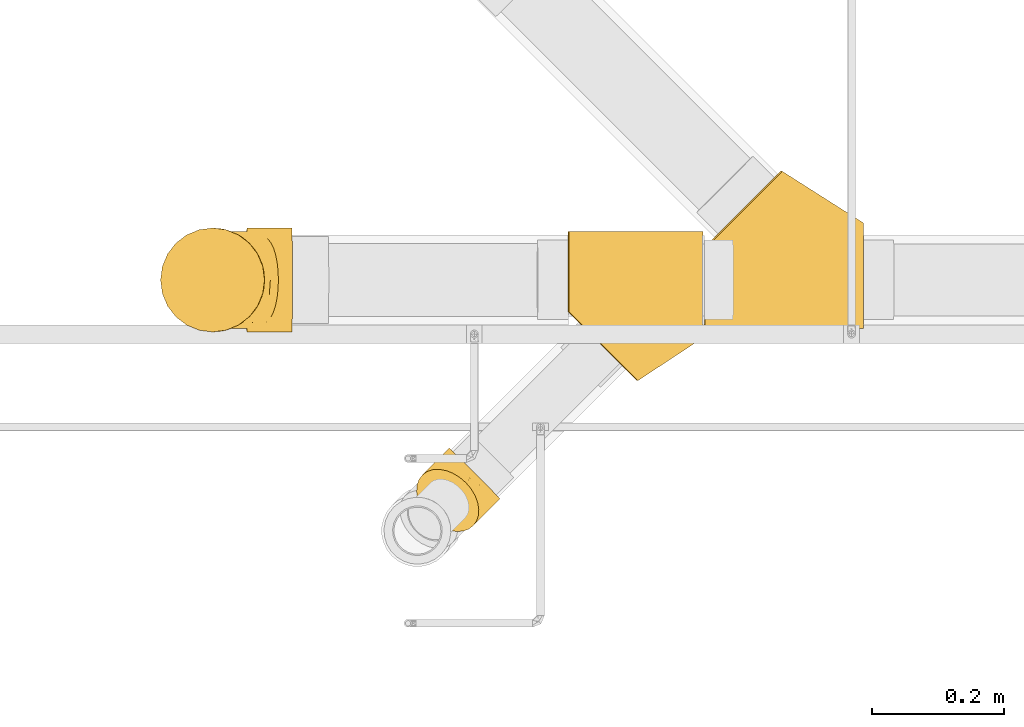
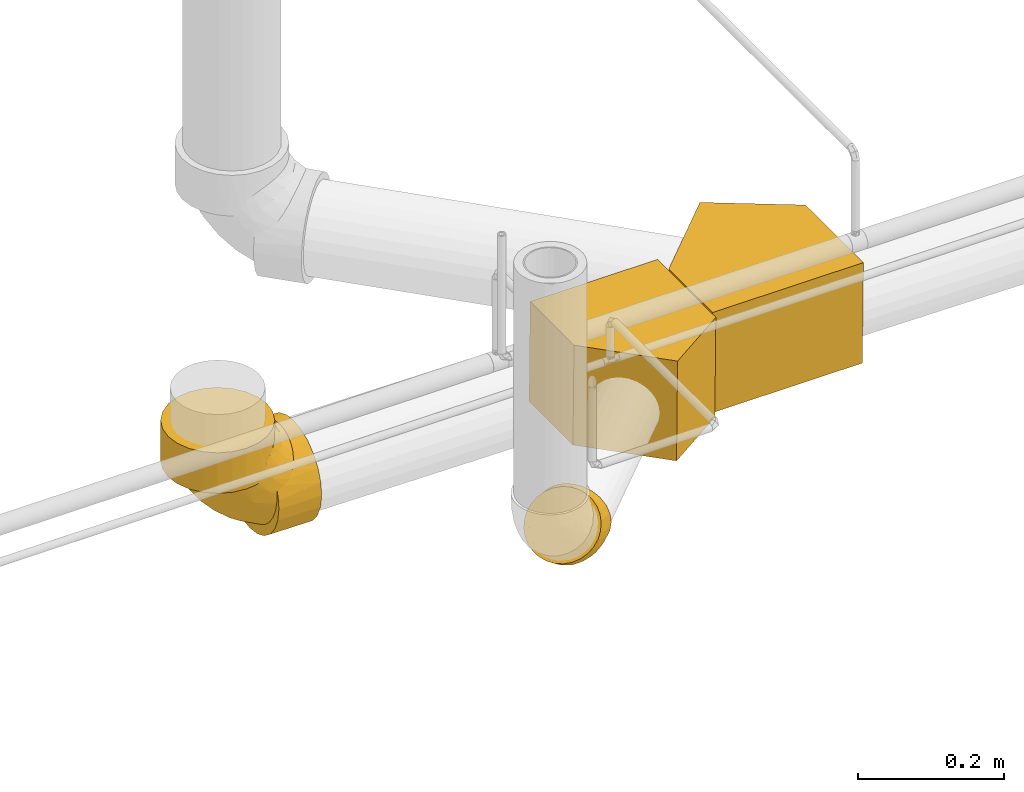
# One storey, part 9 of 108: 4 coverings.
"""IFC2X3 building model written with IfcOpenShell, lengths in millimetres."""

from ifc_helpers import new_model, entity, si_unit, converted_unit, derived_unit, direction, frame, origin_with_axes, place, context, subcontext, project, spatial, open_shell, surface_model, source, transform, mapped, element, save


model = new_model("IFC2X3")

# Units and contexts
model_context = context("Model", 3, precision=0.01, world=frame((0.0, 4.29681676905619e-09, 0.0)), true_north=direction((4.01073788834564e-13, 1.0)))
plan_context = context("Plan", 3, precision=0.01, world=frame((0.0, 4.29681676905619e-09, 0.0)), true_north=direction((4.01073788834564e-13, 1.0)))
body_context = subcontext(model_context, "Body", "Model", "MODEL_VIEW")
ifc_project = project(units=[converted_unit("PLANEANGLEUNIT", "DEGREE", entity("IfcPositiveLengthMeasure", 0.0174532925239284), si_unit("PLANEANGLEUNIT", "RADIAN"), dimensions=[0, 0, 0, 0, 0, 0, 0]), si_unit("AREAUNIT", "SQUARE_METRE"), si_unit("LENGTHUNIT", "METRE", prefix="MILLI"), si_unit("MASSUNIT", "GRAM", prefix="KILO"), si_unit("POWERUNIT", "WATT"), si_unit("PRESSUREUNIT", "PASCAL", prefix="KILO"), si_unit("FORCEUNIT", "NEWTON", prefix="KILO"), si_unit("ELECTRICVOLTAGEUNIT", "VOLT"), si_unit("ELECTRICCURRENTUNIT", "AMPERE"), si_unit("THERMODYNAMICTEMPERATUREUNIT", "DEGREE_CELSIUS"), si_unit("TIMEUNIT", "SECOND"), si_unit("VOLUMEUNIT", "CUBIC_METRE"), derived_unit("LINEARVELOCITYUNIT", [(si_unit("LENGTHUNIT", "METRE"), 1), (si_unit("TIMEUNIT", "SECOND"), -1)]), derived_unit("VOLUMETRICFLOWRATEUNIT", [(si_unit("VOLUMEUNIT", "CUBIC_METRE"), 1), (si_unit("TIMEUNIT", "SECOND"), -1)]), derived_unit("THERMALTRANSMITTANCEUNIT", [(si_unit("POWERUNIT", "WATT"), 1), (si_unit("THERMODYNAMICTEMPERATUREUNIT", "KELVIN"), -1), (si_unit("AREAUNIT", "SQUARE_METRE"), -1)]), derived_unit("SOUNDPRESSUREUNIT", [(si_unit("PRESSUREUNIT", "PASCAL"), 1)])], contexts=[model_context, plan_context])

# Site, building, storey
site_placement = place(None, frame((0.0, -4.29681676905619e-09, 0.0), z_axis=(0.0, 0.0, 1.0), x_axis=(1.0, 0.0, 0.0)))
site = spatial("IfcSite", under=ifc_project, at=site_placement, CompositionType="ELEMENT")
building_placement = place(site_placement, frame((0.0, 4.29681676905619e-09, 0.0), z_axis=(0.0, 0.0, 1.0), x_axis=(1.0, 0.0, 0.0)))
building = spatial("IfcBuilding", under=site, at=building_placement, Name="mc-building", CompositionType="ELEMENT")
storey_placement = place(building_placement, frame((0.0, 0.0, 210200.0), z_axis=(0.0, 0.0, 1.0), x_axis=(1.0, 0.0, 0.0)))
storey = spatial("IfcBuildingStorey", under=building, at=storey_placement, Name="Nivå F - 0,7 m", CompositionType="ELEMENT", Elevation=210200.0)

# Coverings
shared_shape_1 = source(origin_with_axes(), body_context, "Body", "SurfaceModel", [
    surface_model("IfcShellBasedSurfaceModel", [(-51.79605, 0.0, -78.5), (-51.79605, 14.36612, -77.17425), (-51.79605, 5.63118, -72.35594), (-51.79605, 20.91504, -73.5), (-51.79605, 24.56162, -73.43881), (-51.79605, -9.27305, -68.76563), (-51.79605, -20.31729, -75.82518), (-51.79605, 28.2042, -73.25826), (-51.79605, -23.3085, -62.59314), (-51.79605, -39.25, -67.983), (-51.79605, -35.91072, -53.86175), (-51.79605, -55.50788, -55.50788), (-51.79605, -46.49495, -42.77317), (-51.79605, -67.983, -39.25), (-51.79605, -54.51455, -29.71191), (-51.79605, -59.52251, -15.2285), (-51.79605, -75.82518, -20.31729), (-51.79605, -78.5, 0.0), (-51.79605, -61.22582, 0.0), (-51.79605, -23.3085, 62.59314), (-51.79605, -9.27305, 68.76563), (-51.79605, -20.31729, 75.82518), (-51.79605, 5.63118, 72.35594), (-51.79605, 0.0, 78.5), (-51.79605, 20.91504, 73.5), (-51.79605, 24.56162, 73.43881), (-51.79605, 14.36644, 77.17419), (-51.79605, 28.2042, 73.25826), (-51.79605, -39.25, 67.983), (-51.79605, -59.52251, 15.2285), (-51.79605, -54.51455, 29.71191), (-51.79605, -75.82518, 20.31729), (-51.79605, -67.983, 39.25), (-51.79605, -35.91072, 53.86175), (-51.79605, -55.50788, 55.50788), (-51.79605, -46.49495, 42.77317), (-119.79605, 20.31729, 75.82518), (-119.79605, -20.31729, 75.82518), (-119.79605, 0.0, 78.5), (-119.79605, 55.50788, 55.50788), (-119.79605, 39.25, 67.983), (-119.79605, 67.983, 39.25), (-119.79605, 75.82518, 20.31729), (-119.79605, -39.25, 67.983), (-119.79605, -78.5, 0.0), (-119.79605, -55.50788, 55.50788), (-119.79605, -75.82518, 20.31729), (-119.79605, -67.983, 39.25), (-119.79605, 78.5, 0.0), (-119.79605, -67.983, -39.25), (-119.79605, 75.82518, -20.31729), (-119.79605, 39.25, -67.983), (-119.79605, 67.983, -39.25), (-119.79605, 20.31729, -75.82518), (-119.79605, 55.50788, -55.50788), (-119.79605, -39.25, -67.983), (-119.79605, -55.50788, -55.50788), (-119.79605, -75.82518, -20.31729), (-119.79605, 0.0, -78.5), (-119.79605, -20.31729, -75.82518), (-98.1846, 77.47891, 12.62014), (-119.79605, 77.16259, 10.15865), (-91.93105, 63.02644, 46.79656), (-96.98023, 74.45802, 24.86469), (-98.58285, 78.5, 0.0), (-94.92986, 69.56634, 36.36996), (-87.76783, 55.18462, 55.82927), (-82.04571, 46.5999, 63.17198), (-74.20012, 38.25749, 68.54644), (-63.88761, 31.69435, 71.81726), (-74.20012, 38.25749, -68.54644), (-82.04571, 46.5999, -63.17198), (-98.1846, 77.47891, -12.62014), (-119.79605, 77.16259, -10.15865), (-63.88761, 31.69435, -71.81726), (-91.93105, 63.02644, -46.79656), (-96.98023, 74.45802, -24.86469), (-87.76783, 55.18462, -55.82927), (-94.92986, 69.56634, -36.36996), (56.02304, 51.23841, -55.50788), (47.01056, 51.32853, -42.77317), (36.42686, 51.43437, -53.86175), (68.49753, 51.11366, -39.25), (39.76597, 51.40098, -67.983), (23.82526, 51.56039, -62.59314), (76.33932, 51.03525, -20.31729), (55.02975, 51.24834, -29.71191), (60.03747, 51.19826, -15.2285), (79.01401, 51.0085, 0.0), (61.74069, 51.18123, 0.0), (-5.11296, 51.84977, -72.35594), (-13.84746, 51.93711, -77.17425), (0.51793, 51.79346, -78.5), (-20.39605, 52.0026, -73.5), (-24.04246, 52.03907, -73.43881), (20.83421, 51.5903, -75.82518), (9.79052, 51.70073, -68.76563), (-27.68486, 52.07549, -73.25826), (76.33932, 51.03525, 20.31729), (60.03747, 51.19826, 15.2285), (55.02975, 51.24834, 29.71191), (68.49753, 51.11366, 39.25), (56.02304, 51.23841, 55.50788), (47.01056, 51.32853, 42.77317), (36.42686, 51.43437, 53.86175), (39.76597, 51.40098, 67.983), (23.82526, 51.56039, 62.59314), (9.79052, 51.70073, 68.76563), (20.83421, 51.5903, 75.82518), (0.51793, 51.79346, 78.5), (-5.11296, 51.84977, 72.35594), (-13.84746, 51.93711, 77.17425), (-24.04246, 52.03907, 73.43881), (-20.39605, 52.0026, 73.5), (-27.68486, 52.07549, 73.25826), (21.51418, 119.5869, 75.82518), (-19.11838, 119.99322, 75.82518), (1.1979, 119.79006, 78.5), (56.70301, 119.23501, 55.50788), (40.44594, 119.39758, 67.983), (69.1775, 119.11026, -39.25), (69.1775, 119.11026, 39.25), (-66.78169, 120.46985, -39.25), (-54.3072, 120.34511, 55.50788), (-38.05014, 120.18254, 67.983), (-77.29817, 120.57503, 0.0), (-66.78169, 120.46985, 39.25), (-74.62348, 120.54827, 20.31729), (79.69397, 119.0051, 0.0), (77.01929, 119.03184, 20.31729), (77.01929, 119.03184, -20.31729), (56.70301, 119.23501, -55.50788), (40.44594, 119.39758, -67.983), (21.51418, 119.5869, -75.82518), (-54.3072, 120.34511, -55.50788), (-74.62348, 120.54827, -20.31729), (-19.11838, 119.99322, -75.82518), (-38.05014, 120.18254, -67.983), (1.1979, 119.79006, -78.5), (-37.51362, 74.57897, 68.54644), (-45.77716, 82.50758, 63.17198), (-76.49324, 98.95444, 12.62014), (-75.96083, 120.56165, 10.15865), (-31.05392, 64.20134, 71.81726), (-62.10403, 92.55669, 46.79656), (-77.51029, 99.36288, 0.0), (-73.48455, 97.71993, 24.86469), (-54.30423, 88.31527, 55.82927), (-68.61361, 95.62074, 36.36996), (-76.49324, 98.95444, -12.62014), (-75.96083, 120.56165, -10.15865), (-73.48455, 97.71993, -24.86469), (-62.10403, 92.55669, -46.79656), (-68.61361, 95.62074, -36.36996), (-54.30423, 88.31527, -55.82927), (-45.77716, 82.50758, -63.17198), (-37.51362, 74.57897, -68.54644), (-31.05392, 64.20134, -71.81726), (6.56549, -6.63148, 44.3622), (-17.38257, -35.16415, 32.84992), (12.25602, -12.3792, 30.89683), (-22.06533, -47.16348, 0.0), (-9.98135, -36.79599, 18.05935), (4.87101, -28.29292, 0.0), (36.89395, 9.6129, 18.05935), (15.52235, -15.67836, 17.71526), (28.24279, -5.15368, 0.0), (18.71749, 26.1784, 56.62461), (-18.42383, -25.6612, 46.04981), (0.20521, -0.20727, 54.27547), (-26.36425, -18.45478, 56.62461), (-13.82468, 2.47556, 62.92037), (-17.1101, 17.28206, 69.13521), (25.84415, 18.16631, 46.0498), (-34.66498, 35.01337, 73.5), (47.38177, 21.59262, 0.0), (35.3362, 17.03007, 32.84992), (5.95409, 26.82941, 64.02233), (-47.40426, 47.88068, 71.23477), (-60.92831, 59.45465, 64.17298), (-80.92008, 82.74401, 31.39463), (-46.14511, 25.56558, 73.5), (-40.49417, 30.21613, 73.5), (-29.80969, 40.79429, 73.5), (-25.10288, 46.39845, 73.5), (-71.89187, 72.61439, 51.0154), (-86.37683, 87.24492, 0.0), (-89.21703, 81.36474, 19.23032), (-82.19366, 89.20415, 15.91371), (-84.82198, 84.05513, -22.01178), (-77.10094, 77.8758, -42.003), (-65.48687, 78.30622, -52.02608), (-74.10173, 65.91814, -54.3942), (-60.03494, 60.63829, -64.04669), (-47.40426, 47.88068, -71.23477), (-76.55997, 87.95391, -31.13182), (-25.10288, 46.39845, -73.5), (-29.80969, 40.79429, -73.5), (-46.14511, 25.56558, -73.5), (-34.66498, 35.01337, -73.5), (-40.49417, 30.21613, -73.5), (-18.42383, -25.6612, -46.04981), (25.84415, 18.16631, -46.0498), (18.71749, 26.1784, -56.62461), (-13.82468, 2.47556, -62.92037), (0.20521, -0.20727, -54.27547), (-26.36425, -18.45478, -56.62461), (-17.1101, 17.28206, -69.13521), (5.95409, 26.82941, -64.02233), (35.3362, 17.03007, -32.84992), (-17.38257, -35.16415, -32.84992), (6.56549, -6.63148, -44.3622), (36.89395, 9.6129, -18.05935), (15.52235, -15.67836, -17.71526), (12.25602, -12.3792, -30.89683), (-9.98135, -36.79599, -18.05935)], [open_shell([[[0, 1, 2]], [[3, 1, 4]], [[5, 6, 0]], [[2, 1, 3]], [[7, 4, 1]], [[5, 8, 6]], [[2, 5, 0]], [[6, 8, 9]], [[9, 10, 11]], [[10, 9, 8]], [[11, 12, 13]], [[12, 11, 10]], [[14, 15, 16]], [[14, 16, 13]], [[17, 16, 15]], [[17, 15, 18]], [[14, 13, 12]], [[19, 20, 21]], [[22, 23, 20]], [[24, 25, 26]], [[23, 21, 20]], [[22, 26, 23]], [[25, 27, 26]], [[22, 24, 26]], [[19, 21, 28]], [[29, 30, 31]], [[31, 17, 29]], [[30, 32, 31]], [[17, 18, 29]], [[33, 28, 34]], [[28, 33, 19]], [[32, 35, 34]], [[35, 32, 30]], [[34, 35, 33]], [[36, 37, 38]], [[39, 36, 40]], [[39, 41, 42]], [[36, 39, 37]], [[42, 37, 39]], [[43, 44, 45]], [[44, 43, 37]], [[45, 46, 47]], [[46, 45, 44]], [[37, 42, 44]], [[42, 48, 44]], [[49, 44, 50]], [[51, 50, 52]], [[51, 53, 50]], [[51, 52, 54]], [[49, 50, 53]], [[49, 55, 56]], [[57, 44, 49]], [[55, 58, 59]], [[55, 49, 53]], [[58, 55, 53]], [[44, 48, 50]], [[60, 61, 42]], [[41, 39, 62]], [[63, 42, 41]], [[64, 48, 61]], [[65, 63, 41]], [[62, 65, 41]], [[60, 42, 63]], [[39, 66, 62]], [[66, 39, 67]], [[68, 40, 36]], [[40, 68, 67]], [[39, 40, 67]], [[26, 36, 38]], [[64, 61, 60]], [[68, 36, 69]], [[69, 26, 27]], [[36, 26, 69]], [[38, 23, 26]], [[43, 45, 28]], [[23, 38, 21]], [[37, 28, 21]], [[28, 37, 43]], [[38, 37, 21]], [[45, 34, 28]], [[32, 47, 46]], [[31, 46, 44]], [[34, 47, 32]], [[32, 46, 31]], [[44, 17, 31]], [[47, 34, 45]], [[16, 57, 49]], [[13, 49, 56]], [[17, 44, 16]], [[16, 44, 57]], [[49, 13, 16]], [[56, 11, 13]], [[9, 55, 59]], [[6, 59, 58]], [[11, 55, 9]], [[9, 59, 6]], [[58, 0, 6]], [[55, 11, 56]], [[1, 58, 53]], [[53, 51, 70]], [[71, 51, 54]], [[71, 70, 51]], [[0, 58, 1]], [[72, 50, 73]], [[74, 7, 1]], [[74, 1, 53]], [[70, 74, 53]], [[75, 54, 52]], [[73, 48, 64]], [[52, 50, 76]], [[64, 72, 73]], [[75, 77, 54]], [[76, 78, 52]], [[72, 76, 50]], [[75, 52, 78]], [[54, 77, 71]], [[79, 80, 81]], [[80, 79, 82]], [[83, 81, 84]], [[81, 83, 79]], [[82, 85, 86]], [[87, 86, 85]], [[88, 89, 87]], [[87, 85, 88]], [[82, 86, 80]], [[90, 91, 92]], [[91, 93, 94]], [[90, 93, 91]], [[92, 95, 96]], [[84, 96, 95]], [[94, 97, 91]], [[96, 90, 92]], [[95, 83, 84]], [[88, 98, 99]], [[100, 99, 98]], [[98, 101, 100]], [[101, 102, 103]], [[102, 104, 103]], [[104, 102, 105]], [[104, 105, 106]], [[101, 103, 100]], [[107, 106, 108]], [[107, 109, 110]], [[111, 110, 109]], [[112, 113, 111]], [[113, 110, 111]], [[112, 111, 114]], [[109, 107, 108]], [[106, 105, 108]], [[99, 89, 88]], [[115, 116, 117]], [[118, 115, 119]], [[120, 118, 121]], [[116, 115, 118]], [[118, 122, 116]], [[116, 123, 124]], [[123, 116, 125]], [[126, 125, 127]], [[125, 126, 123]], [[125, 116, 122]], [[128, 121, 129]], [[128, 130, 120]], [[118, 120, 122]], [[131, 132, 133]], [[131, 133, 120]], [[122, 120, 133]], [[133, 134, 122]], [[135, 125, 122]], [[134, 136, 137]], [[136, 134, 138]], [[138, 134, 133]], [[121, 128, 120]], [[98, 128, 129]], [[88, 128, 98]], [[102, 101, 121]], [[101, 98, 129]], [[121, 101, 129]], [[121, 118, 102]], [[105, 119, 115]], [[108, 115, 117]], [[102, 119, 105]], [[105, 115, 108]], [[117, 109, 108]], [[119, 102, 118]], [[111, 117, 116]], [[116, 124, 139]], [[140, 124, 123]], [[140, 139, 124]], [[109, 117, 111]], [[141, 127, 142]], [[143, 114, 111]], [[143, 111, 116]], [[139, 143, 116]], [[144, 123, 126]], [[142, 125, 145]], [[126, 127, 146]], [[145, 141, 142]], [[144, 147, 123]], [[146, 148, 126]], [[141, 146, 127]], [[144, 126, 148]], [[123, 147, 140]], [[149, 150, 135]], [[151, 135, 122]], [[152, 122, 134]], [[145, 125, 150]], [[153, 151, 122]], [[152, 153, 122]], [[149, 135, 151]], [[134, 154, 152]], [[154, 134, 155]], [[156, 137, 136]], [[137, 156, 155]], [[134, 137, 155]], [[91, 136, 138]], [[145, 150, 149]], [[156, 136, 157]], [[157, 91, 97]], [[136, 91, 157]], [[138, 92, 91]], [[95, 133, 132]], [[83, 132, 131]], [[138, 133, 92]], [[92, 133, 95]], [[132, 83, 95]], [[131, 79, 83]], [[82, 120, 130]], [[85, 130, 128]], [[79, 120, 82]], [[82, 130, 85]], [[128, 88, 85]], [[120, 79, 131]], [[158, 159, 160]], [[29, 18, 161]], [[162, 161, 163]], [[164, 165, 166]], [[104, 106, 167]], [[162, 30, 29]], [[35, 159, 168]], [[29, 161, 162]], [[168, 169, 170]], [[170, 19, 33]], [[19, 170, 171]], [[100, 164, 99]], [[19, 171, 20]], [[172, 22, 20]], [[169, 158, 173]], [[159, 35, 30]], [[22, 174, 24]], [[107, 110, 172]], [[160, 165, 164]], [[175, 99, 164]], [[173, 104, 167]], [[176, 103, 173]], [[160, 162, 165]], [[104, 173, 103]], [[176, 173, 158]], [[99, 175, 89]], [[106, 107, 177]], [[173, 167, 169]], [[160, 159, 162]], [[167, 106, 177]], [[174, 110, 113]], [[22, 172, 174]], [[160, 164, 176]], [[33, 35, 168]], [[174, 172, 110]], [[177, 171, 169]], [[169, 167, 177]], [[171, 170, 169]], [[177, 172, 171]], [[168, 170, 33]], [[20, 171, 172]], [[164, 166, 175]], [[172, 177, 107]], [[158, 169, 168]], [[30, 162, 159]], [[164, 100, 176]], [[103, 176, 100]], [[162, 163, 165]], [[166, 165, 163]], [[159, 158, 168]], [[176, 158, 160]], [[68, 178, 179]], [[144, 148, 180]], [[27, 178, 69]], [[27, 25, 181]], [[27, 182, 174]], [[178, 27, 174]], [[183, 184, 114]], [[139, 178, 143]], [[185, 66, 179]], [[62, 66, 185]], [[68, 179, 67]], [[186, 64, 187]], [[180, 65, 185]], [[65, 62, 185]], [[25, 24, 181]], [[188, 187, 180]], [[187, 64, 60]], [[146, 141, 188]], [[146, 188, 180]], [[114, 178, 174]], [[183, 114, 174]], [[112, 184, 113]], [[67, 179, 66]], [[181, 182, 27]], [[140, 147, 179]], [[140, 179, 139]], [[139, 179, 178]], [[179, 147, 185]], [[188, 145, 186]], [[188, 141, 145]], [[114, 184, 112]], [[180, 187, 65]], [[144, 180, 185]], [[178, 68, 69]], [[60, 63, 187]], [[148, 146, 180]], [[144, 185, 147]], [[186, 187, 188]], [[143, 178, 114]], [[187, 63, 65]], [[76, 189, 78]], [[189, 186, 149]], [[78, 189, 190]], [[72, 64, 186]], [[191, 152, 154]], [[72, 189, 76]], [[186, 189, 72]], [[190, 192, 75]], [[193, 194, 70]], [[192, 193, 71]], [[75, 192, 77]], [[190, 189, 195]], [[196, 197, 97]], [[7, 74, 194]], [[198, 3, 4]], [[94, 93, 196]], [[7, 199, 200]], [[71, 77, 192]], [[70, 71, 193]], [[191, 192, 190]], [[153, 195, 151]], [[152, 195, 153]], [[152, 190, 195]], [[156, 194, 193]], [[149, 195, 189]], [[195, 149, 151]], [[155, 193, 191]], [[75, 78, 190]], [[193, 192, 191]], [[94, 196, 97]], [[7, 194, 199]], [[200, 198, 7]], [[97, 197, 199]], [[194, 97, 199]], [[70, 194, 74]], [[7, 198, 4]], [[191, 154, 155]], [[97, 194, 157]], [[156, 157, 194]], [[156, 193, 155]], [[149, 186, 145]], [[152, 191, 190]], [[10, 201, 12]], [[202, 203, 81]], [[204, 205, 206]], [[204, 206, 8]], [[201, 206, 205]], [[5, 207, 204]], [[207, 96, 208]], [[207, 2, 199]], [[161, 18, 15]], [[80, 209, 202]], [[96, 84, 208]], [[210, 201, 211]], [[212, 213, 214]], [[86, 87, 212]], [[84, 81, 203]], [[163, 161, 215]], [[207, 208, 204]], [[211, 209, 214]], [[2, 3, 199]], [[208, 205, 204]], [[199, 93, 90]], [[81, 80, 202]], [[214, 215, 210]], [[207, 5, 2]], [[10, 8, 206]], [[205, 211, 201]], [[209, 80, 86]], [[203, 205, 208]], [[211, 205, 202]], [[203, 202, 205]], [[166, 163, 213]], [[214, 209, 212]], [[213, 215, 214]], [[201, 210, 12]], [[87, 89, 175]], [[14, 215, 15]], [[161, 15, 215]], [[212, 175, 166]], [[90, 96, 207]], [[201, 10, 206]], [[84, 203, 208]], [[90, 207, 199]], [[8, 5, 204]], [[87, 175, 212]], [[86, 212, 209]], [[215, 14, 210]], [[12, 210, 14]], [[166, 213, 212]], [[163, 215, 213]], [[209, 211, 202]], [[210, 211, 214]]])]),
])
covering_1_placement = place(storey_placement, frame((325828.8545, 463531.64264, 3102.65448999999), z_axis=(0.0, 1.0, 0.0), x_axis=(-0.999949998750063, 0.0, 0.0099999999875)))
element("IfcCovering", 1, at=covering_1_placement, inside=storey, Name="BI17T - Cellegummi 13 mm SPV fett", PredefinedType="INSULATION", context=body_context, shape_type="MappedRepresentation", body=[
    mapped(shared_shape_1, transform((0.0, 0.0, 0.0), scale=1.0)),
])
shared_shape_2 = source(origin_with_axes(), body_context, "Body", "SurfaceModel", [
    surface_model("IfcShellBasedSurfaceModel", [(58.70444, -164.4547, -75.6052), (58.70444, -164.4547, 92.47114), (-63.88856, -86.50662, -74.06315), (-63.88856, -86.50662, 94.01318), (175.47163, -47.67365, -76.29398), (175.47163, -47.67365, 91.78235), (175.47163, 73.5546, -75.79899), (175.47163, 72.86833, 92.27455), (-63.88856, 72.85857, 94.6639), (-63.88856, 73.54484, -73.40963)], [open_shell([[[0, 1, 2]], [[3, 2, 1]], [[4, 5, 0]], [[1, 0, 5]], [[4, 6, 5]], [[7, 5, 6]], [[5, 7, 8]], [[5, 3, 1]], [[3, 5, 8]], [[2, 9, 4]], [[2, 4, 0]], [[4, 9, 6]], [[8, 7, 9]], [[6, 9, 7]], [[9, 2, 3]], [[3, 8, 9]]])]),
])
covering_2_placement = place(storey_placement, frame((326746.67634, 463531.64264, 3093.49037000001), z_axis=(0.00998191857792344, -0.00408299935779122, 0.999941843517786), x_axis=(-0.999950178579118, 0.0, 0.00998200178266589)))
element("IfcCovering", 2, at=covering_2_placement, inside=storey, Name="BI17T - Cellegummi 13 mm SPV fett", PredefinedType="INSULATION", context=body_context, shape_type="MappedRepresentation", body=[
    mapped(shared_shape_2, transform((0.0, 0.0, 0.0), scale=1.0)),
])
shared_shape_3 = source(origin_with_axes(), body_context, "Body", "SurfaceModel", [
    surface_model("IfcShellBasedSurfaceModel", [(46.50576, -151.90168, -92.50109), (46.50576, -151.90168, 74.4433), (-51.51493, -87.39105, 73.46482), (-51.51493, -87.39105, -93.47956), (150.72141, -47.67365, -91.46077), (150.72141, -47.67365, 75.48362), (150.72141, 73.0, 75.48362), (150.72141, 73.0, -91.46077), (-51.51493, 73.0, 73.46482), (-51.51493, 73.0, -93.47956)], [open_shell([[[0, 1, 2]], [[2, 3, 0]], [[4, 5, 1]], [[1, 0, 4]], [[6, 5, 7]], [[4, 7, 5]], [[8, 2, 5]], [[5, 6, 8]], [[5, 2, 1]], [[7, 4, 9]], [[3, 9, 4]], [[3, 4, 0]], [[7, 9, 8]], [[8, 6, 7]], [[2, 8, 9]], [[9, 3, 2]]])]),
])
covering_3_placement = place(storey_placement, frame((326516.68301, 463531.64264, 3095.78623999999), z_axis=(-0.00998200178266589, 0.0, -0.999950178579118), x_axis=(-0.999950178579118, 0.0, 0.00998200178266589)))
element("IfcCovering", 3, at=covering_3_placement, inside=storey, Name="BI17T - Cellegummi 13 mm SPV fett", PredefinedType="INSULATION", context=body_context, shape_type="MappedRepresentation", body=[
    mapped(shared_shape_3, transform((0.0, 0.0, 0.0), scale=1.0)),
])
shared_shape_4 = source(origin_with_axes(), body_context, "Body", "SurfaceModel", [
    surface_model("IfcShellBasedSurfaceModel", [(-12.96244, 61.35334, 12.07667), (-12.96532, 61.35628, -12.05862), (-13.91534, 62.32548, 0.0), (-5.62552, 53.8682, 33.83302), (-10.15199, 58.48611, 23.54601), (58.27807, -11.32638, 23.52619), (0.37656, 47.74486, -42.40742), (0.38956, 47.73161, 42.42222), (7.59136, 40.38432, 48.88334), (-10.15867, 58.49293, -23.52619), (-5.63588, 53.87877, -33.81446), (7.57748, 40.39847, -48.8738), (15.60603, 32.20773, -52.88872), (40.52805, 6.78223, -48.88334), (24.0597, 23.58327, -54.25), (15.61866, 32.19484, 52.89284), (24.0597, 23.58327, 54.25), (32.51338, 14.95882, 52.88872), (40.54192, 6.76808, 48.8738), (53.75529, -6.71222, 33.81446), (58.2714, -11.31956, -23.54601), (47.74284, -0.57831, 42.40742), (61.08473, -14.18973, 12.05862), (53.74493, -6.70165, -33.83302), (47.72985, -0.56506, -42.42222), (32.50074, 14.97171, -52.89284), (61.08185, -14.18679, -12.07667), (62.03474, -15.15894, 0.0), (-33.69036, 38.36054, -38.36054), (-33.69036, 54.25, 0.0), (-33.69036, 52.40148, -14.04093), (-33.69036, 46.98188, -27.125), (-33.69036, 27.125, -46.98188), (-33.69036, 52.40148, 14.04093), (-33.69036, -14.04093, 52.40148), (-33.69036, 14.04093, 52.40148), (-33.69036, 38.36054, 38.36054), (-33.69036, 46.98188, 27.125), (-33.69036, 27.125, 46.98188), (-33.69036, 0.0, 54.25), (-33.69036, 14.04093, -52.40148), (-33.69036, -52.40148, -14.04093), (-33.69036, 0.0, -54.25), (-33.69036, -14.04093, -52.40148), (-33.69036, -38.36054, -38.36054), (-33.69036, -27.125, -46.98188), (-33.69036, -46.98188, -27.125), (-33.69036, -52.40148, 14.04093), (-33.69036, -27.125, 46.98188), (-33.69036, -38.36054, 38.36054), (-33.69036, -46.98188, 27.125), (-33.69036, -54.25, 0.0), (29.78706, -21.46811, 37.38235), (1.26267, -49.7076, 0.0), (15.96205, -36.99081, 27.2726), (4.89486, -33.66319, 36.75247), (-8.95636, -43.06882, 29.57166), (33.89363, -36.38216, 0.0), (7.12704, -45.97326, 14.40894), (-12.47876, -31.3158, 42.84627), (36.58725, -31.54483, 17.17486), (10.0938, -22.26712, 44.48673), (-9.28832, -19.079, 49.60272), (-9.95672, -7.56052, 53.1973), (15.89132, -6.96385, 50.51371), (-2.50045, 6.12304, 54.25), (11.41757, 2.42637, 53.42855), (38.91708, -23.99143, 28.12762), (30.0153, -10.05134, 45.29465), (-8.68268, 46.11802, 38.36893), (-5.48105, 36.86702, 45.94169), (-1.29118, 18.52735, 53.16597), (-15.77903, 13.72759, 53.0315), (-23.64931, 21.8515, 50.00973), (-11.32797, 24.95279, 50.12046), (-21.9623, 52.31909, 20.76057), (-14.46619, 51.39001, 28.87112), (-16.70171, 55.50129, 19.56013), (8.61109, 13.4276, 54.25), (-26.26324, 53.9828, 11.43341), (-28.38346, 50.44607, 21.02592), (-19.20531, 58.84793, 0.0), (-20.43685, 56.33075, 10.79082), (-25.50536, 44.65129, 32.04203), (-23.02847, 33.176, 43.78019), (-0.18217, 29.21187, 50.60408), (-23.01018, 56.34668, 0.0), (-27.47827, 55.46952, 0.0), (-16.66854, 41.76561, 38.36893), (-15.54887, 3.56144, 54.25), (-3.33386, 38.28983, -45.92952), (-11.17064, 44.54722, -38.35215), (-28.35027, 55.29834, 0.0), (-25.57372, 52.52813, -17.20783), (-19.62487, 48.75578, -28.85176), (-21.2355, 40.16278, -38.35229), (-26.48843, 45.4393, -30.67338), (-23.81194, 31.64181, -44.73371), (-13.05801, 32.99886, -45.92952), (-16.63271, 19.49707, -51.44154), (-2.50045, 6.12304, -54.25), (-18.0954, 3.06152, -54.25), (-0.73903, 26.96392, -51.20341), (-17.72328, 55.5907, -17.90499), (8.6111, 13.4276, -54.25), (-12.99646, 52.36243, -28.85176), (-9.98604, -7.55445, -53.19997), (15.88249, -6.94731, -50.52105), (-9.28063, -19.0602, -49.61002), (29.77941, -21.45393, -37.39925), (38.9103, -23.98196, -28.1468), (15.95607, -36.98138, -27.29152), (36.5817, -31.54093, -17.1935), (11.3661, 2.40152, -53.42918), (7.09997, -45.97795, -14.42247), (10.08895, -22.24914, -44.49961), (4.88626, -33.64996, -36.76904), (-12.46575, -31.29629, -42.85931), (-8.96766, -43.05923, -29.58949), (30.00563, -10.03496, -45.30715)], [open_shell([[[0, 1, 2]], [[3, 0, 4]], [[5, 6, 0]], [[3, 7, 8]], [[0, 3, 8]], [[0, 8, 5]], [[9, 6, 10]], [[9, 1, 0]], [[11, 6, 12]], [[13, 12, 6]], [[9, 0, 6]], [[14, 12, 13]], [[8, 15, 5]], [[16, 17, 18]], [[16, 18, 5]], [[19, 5, 18]], [[6, 5, 20]], [[18, 21, 19]], [[20, 5, 22]], [[13, 23, 24]], [[25, 14, 13]], [[26, 20, 22]], [[23, 13, 20]], [[20, 13, 6]], [[27, 26, 22]], [[15, 16, 5]], [[28, 29, 30]], [[28, 30, 31]], [[29, 32, 33]], [[32, 29, 28]], [[32, 34, 35]], [[33, 36, 37]], [[36, 33, 35]], [[36, 35, 38]], [[33, 32, 35]], [[35, 34, 39]], [[32, 40, 34]], [[41, 42, 43]], [[44, 43, 45]], [[44, 46, 41]], [[44, 41, 43]], [[42, 41, 47]], [[48, 47, 49]], [[47, 48, 34]], [[49, 47, 50]], [[34, 42, 47]], [[41, 51, 47]], [[42, 34, 40]], [[21, 52, 19]], [[47, 51, 53]], [[54, 55, 56]], [[53, 57, 58]], [[59, 49, 55]], [[60, 54, 58]], [[55, 52, 61]], [[59, 62, 48]], [[63, 39, 34]], [[62, 61, 64]], [[47, 58, 56]], [[65, 63, 66]], [[54, 52, 55]], [[67, 52, 54]], [[60, 58, 57]], [[57, 22, 60]], [[5, 19, 67]], [[5, 67, 60]], [[64, 63, 62]], [[27, 22, 57]], [[68, 52, 21]], [[48, 62, 34]], [[58, 54, 56]], [[66, 16, 65]], [[18, 17, 64]], [[64, 61, 68]], [[60, 67, 54]], [[52, 67, 19]], [[18, 68, 21]], [[47, 53, 58]], [[64, 66, 63]], [[5, 60, 22]], [[39, 63, 65]], [[62, 63, 34]], [[59, 55, 61]], [[56, 49, 50]], [[49, 56, 55]], [[56, 50, 47]], [[62, 59, 61]], [[49, 59, 48]], [[64, 17, 66]], [[16, 66, 17]], [[64, 68, 18]], [[52, 68, 61]], [[69, 70, 7]], [[71, 72, 65]], [[72, 73, 35]], [[72, 71, 74]], [[75, 76, 77]], [[78, 15, 71]], [[75, 79, 80]], [[0, 81, 82]], [[83, 36, 84]], [[75, 80, 83]], [[83, 76, 75]], [[79, 75, 82]], [[70, 8, 7]], [[85, 15, 8]], [[3, 69, 7]], [[75, 77, 82]], [[84, 36, 38]], [[70, 74, 85]], [[71, 85, 74]], [[38, 73, 84]], [[79, 82, 86]], [[0, 82, 77]], [[79, 86, 87]], [[84, 70, 88]], [[0, 2, 81]], [[81, 86, 82]], [[76, 3, 4]], [[69, 76, 88]], [[71, 65, 78]], [[39, 89, 72]], [[78, 16, 15]], [[79, 29, 33]], [[72, 89, 65]], [[29, 79, 87]], [[80, 33, 37]], [[73, 72, 74]], [[39, 72, 35]], [[33, 80, 79]], [[83, 80, 37]], [[36, 83, 37]], [[83, 88, 76]], [[74, 70, 84]], [[35, 73, 38]], [[74, 84, 73]], [[84, 88, 83]], [[76, 69, 3]], [[70, 69, 88]], [[76, 4, 77]], [[0, 77, 4]], [[15, 85, 71]], [[8, 70, 85]], [[90, 91, 6]], [[30, 92, 93]], [[94, 95, 96]], [[97, 95, 98]], [[99, 100, 101]], [[11, 12, 102]], [[99, 32, 97]], [[81, 103, 86]], [[91, 95, 94]], [[93, 103, 94]], [[102, 12, 104]], [[101, 40, 99]], [[9, 103, 1]], [[81, 2, 1]], [[10, 6, 91]], [[10, 105, 9]], [[28, 95, 97]], [[31, 30, 93]], [[105, 103, 9]], [[94, 105, 91]], [[99, 98, 102]], [[90, 6, 11]], [[100, 102, 104]], [[93, 86, 103]], [[93, 94, 96]], [[90, 102, 98]], [[95, 91, 98]], [[40, 101, 42]], [[12, 14, 104]], [[103, 81, 1]], [[100, 99, 102]], [[32, 99, 40]], [[96, 28, 31]], [[91, 105, 10]], [[103, 105, 94]], [[102, 90, 11]], [[91, 90, 98]], [[99, 97, 98]], [[28, 97, 32]], [[28, 96, 95]], [[93, 96, 31]], [[92, 30, 29]], [[92, 86, 93]], [[106, 107, 108]], [[109, 110, 111]], [[100, 106, 42]], [[109, 24, 23]], [[112, 110, 20]], [[45, 43, 108]], [[51, 41, 53]], [[106, 100, 113]], [[112, 114, 111]], [[106, 108, 43]], [[115, 116, 117]], [[118, 114, 41]], [[42, 106, 43]], [[118, 44, 116]], [[13, 107, 25]], [[108, 115, 117]], [[107, 13, 119]], [[53, 41, 114]], [[119, 13, 24]], [[108, 107, 115]], [[113, 107, 106]], [[115, 119, 109]], [[114, 112, 57]], [[110, 23, 20]], [[26, 27, 57]], [[114, 57, 53]], [[26, 57, 112]], [[110, 112, 111]], [[110, 109, 23]], [[26, 112, 20]], [[116, 109, 111]], [[113, 14, 25]], [[118, 41, 46]], [[115, 109, 116]], [[118, 116, 111]], [[117, 44, 45]], [[114, 118, 111]], [[44, 118, 46]], [[44, 117, 116]], [[108, 117, 45]], [[14, 113, 100]], [[25, 107, 113]], [[109, 119, 24]], [[107, 119, 115]]])]),
])
covering_4_placement = place(storey_placement, frame((326200.70593, 463215.6724, 3099.84216999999), z_axis=(-0.707106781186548, 0.707106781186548, 0.0), x_axis=(-0.707071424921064, -0.707071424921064, 0.0100000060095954)))
element("IfcCovering", 4, at=covering_4_placement, inside=storey, Name="BI17T - Cellegummi 13 mm SPV fett", PredefinedType="INSULATION", context=body_context, shape_type="MappedRepresentation", body=[
    mapped(shared_shape_4, transform((0.0, 0.0, 0.0), scale=1.0)),
])

save(model, "model.ifc")
